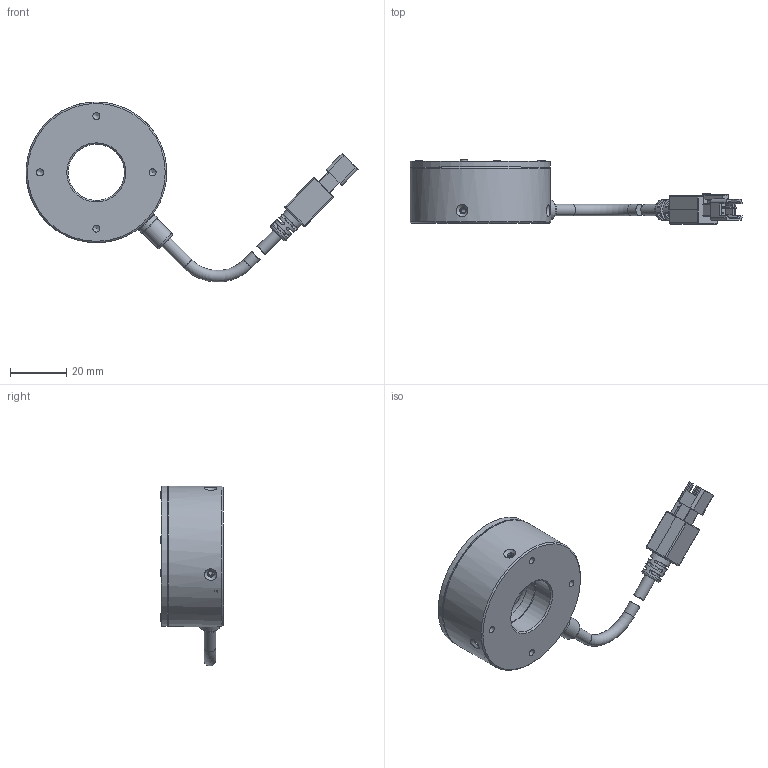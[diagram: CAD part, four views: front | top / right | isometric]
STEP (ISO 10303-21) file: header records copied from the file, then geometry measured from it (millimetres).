
FILE_DESCRIPTION (( 'STEP AP203' ), '1' );
FILE_NAME ('OPT-RI5060-X-V5.0U尨砩芞.STEP', '2024-12-12T01:42:05', ( '' ), ( '' ), 'SwSTEP 2.0', 'SolidWorks 2016', '' );
FILE_SCHEMA (( 'CONFIG_CONTROL_DESIGN' ));
Length unit declared in the file: millimetre
Products named in the file (1): OPT-RI5060-X-V5.0U尨砩芞
Bounding box: 117.95 x 22.7 x 63.94 mm (x, y, z)
Volume: 30508.7 mm3; surface area: 17878.3 mm2
Topology: 11 solids, 11 shells, 461 faces, 1155 edges, 738 vertices
Faces by surface type: plane 250, cylinder 135, cone 36, bspline 25, torus 15
Full cylindrical faces by diameter (mm): 1.05 x2, 1.1 x6, 1.4 x4, 1.6 x4, 1.7 x4, 2.4 x4, 2.5 x4, 2.6 x4, 3.5 x1, 4.1 x4, 5.8 x1, 7.5 x2, 8 x1, 20 x2, 23 x1, 41.8 x1, 50 x2
Entity records: 14203 total; most frequent: CARTESIAN_POINT 3828, DIRECTION 2078, ORIENTED_EDGE 2034, EDGE_CURVE 1017, AXIS2_PLACEMENT_3D 720, VERTEX_POINT 698, LINE 638, VECTOR 638
